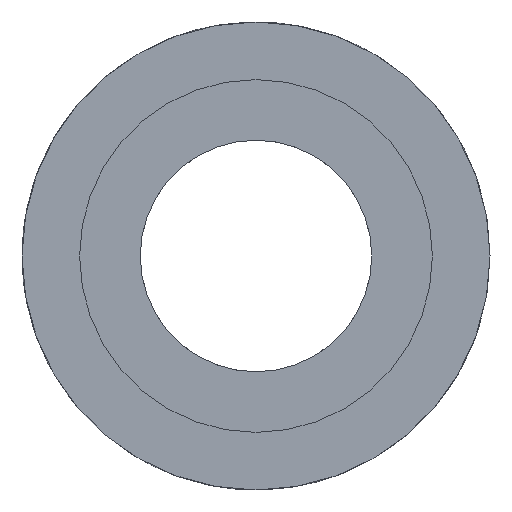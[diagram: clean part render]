
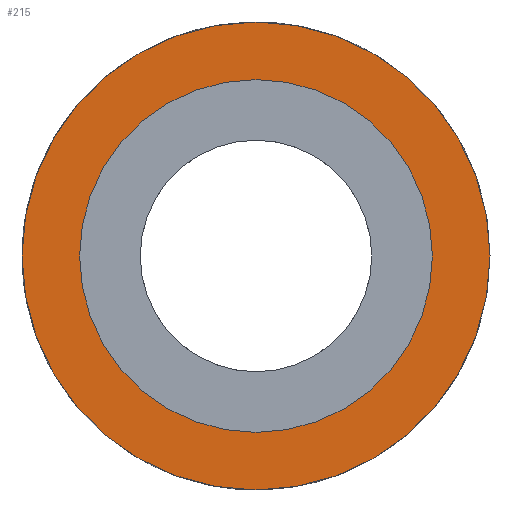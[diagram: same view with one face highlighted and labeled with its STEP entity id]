
A CAD part, left-side view. The second image highlights one B-rep face of the part: STEP entity #215.
In plain terms, the highlighted planar face has unit normal (-1, 0, 0).
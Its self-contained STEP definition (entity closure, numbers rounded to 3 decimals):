
#15=FACE_BOUND($,#52,.T.);
#37=FACE_OUTER_BOUND($,#51,.T.);
#51=EDGE_LOOP($,(#181));
#52=EDGE_LOOP($,(#182));
#66=CIRCLE($,#239,0.9);
#68=CIRCLE($,#242,1.194);
#111=VERTEX_POINT($,#422);
#113=VERTEX_POINT($,#427);
#138=EDGE_CURVE($,#111,#111,#66,.T.);
#140=EDGE_CURVE($,#113,#113,#68,.T.);
#181=ORIENTED_EDGE($,*,*,#140,.F.);
#182=ORIENTED_EDGE($,*,*,#138,.T.);
#203=PLANE($,#241);
#215=ADVANCED_FACE($,(#37,#15),#203,.T.);
#239=AXIS2_PLACEMENT_3D($,#423,#295,#296);
#241=AXIS2_PLACEMENT_3D($,#426,#299,#300);
#242=AXIS2_PLACEMENT_3D($,#428,#301,#302);
#295=DIRECTION('center_axis',(1.,0.,0.));
#296=DIRECTION('ref_axis',(0.,1.,0.));
#299=DIRECTION('center_axis',(-1.,0.,0.));
#300=DIRECTION('ref_axis',(0.,0.,1.));
#301=DIRECTION('center_axis',(1.,0.,0.));
#302=DIRECTION('ref_axis',(0.,1.,0.));
#422=CARTESIAN_POINT('',(3.175,0.9,0.));
#423=CARTESIAN_POINT('Origin',(3.175,0.,0.));
#426=CARTESIAN_POINT('Origin',(3.175,1.047,0.));
#427=CARTESIAN_POINT('',(3.175,1.194,0.));
#428=CARTESIAN_POINT('Origin',(3.175,0.,0.));
